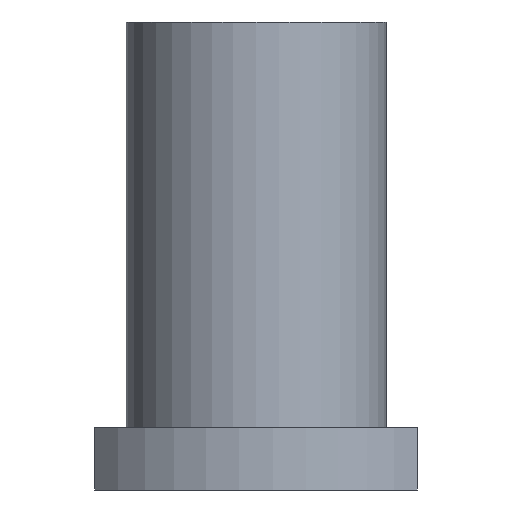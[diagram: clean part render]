
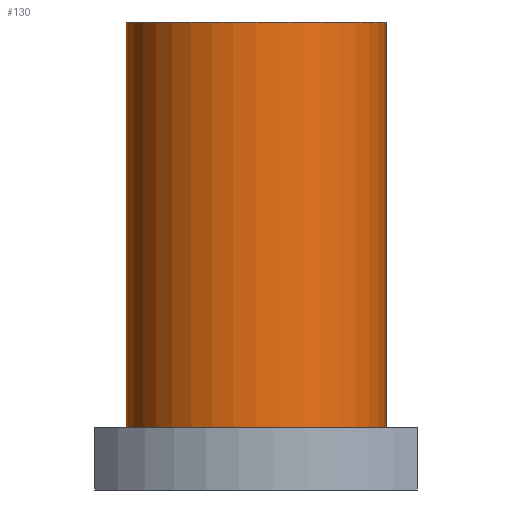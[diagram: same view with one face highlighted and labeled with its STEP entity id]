
A CAD part, front view. The second image highlights one B-rep face of the part: STEP entity #130.
In plain terms, the highlighted cylindrical face has radius 25 mm (diameter 50 mm), a full revolution.
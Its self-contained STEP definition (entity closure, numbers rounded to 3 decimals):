
#130=ADVANCED_FACE('',(#296,#298),#300,.T.);
#296=FACE_OUTER_BOUND('',#297,.T.);
#297=EDGE_LOOP('',(#408));
#298=FACE_OUTER_BOUND('',#299,.T.);
#299=EDGE_LOOP('',(#409));
#300=CYLINDRICAL_SURFACE('',#301,25.);
#301=AXIS2_PLACEMENT_3D('',#302,#303,#304);
#302=CARTESIAN_POINT('',(0.,0.,-1.));
#303=DIRECTION('',(0.,0.,1.));
#304=DIRECTION('',(1.,0.,0.));
#408=ORIENTED_EDGE('',*,*,#434,.F.);
#409=ORIENTED_EDGE('',*,*,#453,.T.);
#434=EDGE_CURVE('',#472,#472,#473,.T.);
#453=EDGE_CURVE('',#508,#508,#509,.T.);
#472=VERTEX_POINT('',#684);
#473=CIRCLE('',#685,25.);
#508=VERTEX_POINT('',#773);
#509=CIRCLE('',#774,25.);
#684=CARTESIAN_POINT('',(25.,0.,90.));
#685=AXIS2_PLACEMENT_3D('',#686,#687,#688);
#686=CARTESIAN_POINT('',(0.,0.,90.));
#687=DIRECTION('',(0.,0.,1.));
#688=DIRECTION('',(1.,0.,0.));
#773=CARTESIAN_POINT('',(25.,0.,12.));
#774=AXIS2_PLACEMENT_3D('',#775,#776,#777);
#775=CARTESIAN_POINT('',(0.,0.,12.));
#776=DIRECTION('',(0.,0.,1.));
#777=DIRECTION('',(1.,0.,0.));
